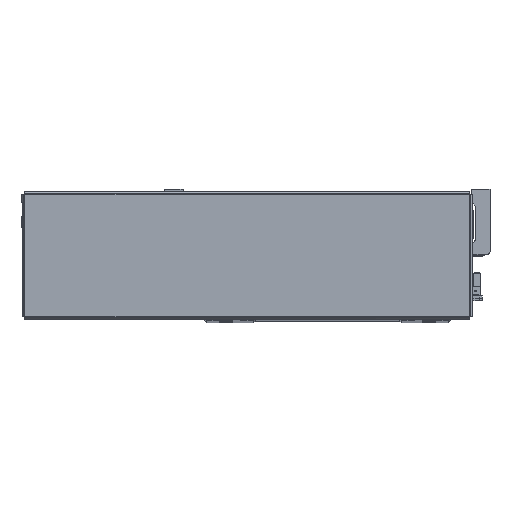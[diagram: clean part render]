
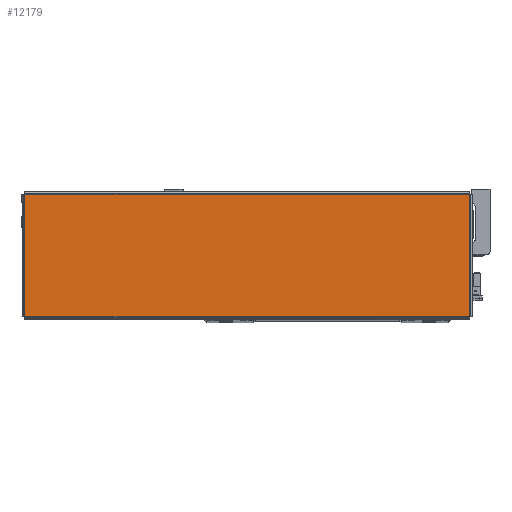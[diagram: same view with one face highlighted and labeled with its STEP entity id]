
A CAD part, top view. The second image highlights one B-rep face of the part: STEP entity #12179.
In plain terms, the highlighted planar face has unit normal (0, 0, 1) as drawn and (0, -1, 0) by its records, which use the part's own axes.
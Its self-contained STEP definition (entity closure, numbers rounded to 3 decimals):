
#2881 = EDGE_CURVE ( 'NONE', #23845, #23881, #13881, .T. ) ;
#2888 = EDGE_CURVE ( 'NONE', #23889, #23839, #13880, .T. ) ;
#2920 = EDGE_CURVE ( 'NONE', #23839, #23845, #13914, .T. ) ;
#2979 = EDGE_CURVE ( 'NONE', #23881, #23889, #13981, .T. ) ;
#12179 = ADVANCED_FACE ( 'NONE', ( #42994 ), #26578, .F. ) ;
#13837 = VECTOR ( 'NONE', #15978, 1000. ) ;
#13858 = VECTOR ( 'NONE', #15977, 1000. ) ;
#13880 = LINE ( 'NONE', #16013, #13837 ) ;
#13881 = LINE ( 'NONE', #15983, #13858 ) ;
#13914 = LINE ( 'NONE', #16022, #13932 ) ;
#13932 = VECTOR ( 'NONE', #16089, 1000. ) ;
#13981 = LINE ( 'NONE', #16288, #14013 ) ;
#14013 = VECTOR ( 'NONE', #16289, 1000. ) ;
#15977 = DIRECTION ( 'NONE',  ( 0., 0., 1. ) ) ;
#15978 = DIRECTION ( 'NONE',  ( 0., 0., -1. ) ) ;
#15983 = CARTESIAN_POINT ( 'NONE',  ( 154.013, -1.2, -42.293 ) ) ;
#16013 = CARTESIAN_POINT ( 'NONE',  ( -154.013, -1.2, 42.293 ) ) ;
#16022 = CARTESIAN_POINT ( 'NONE',  ( -154.043, -1.2, -42.263 ) ) ;
#16089 = DIRECTION ( 'NONE',  ( 1., 0., 0. ) ) ;
#16288 = CARTESIAN_POINT ( 'NONE',  ( 154.043, -1.2, 42.263 ) ) ;
#16289 = DIRECTION ( 'NONE',  ( -1., 0., 0. ) ) ;
#19589 = EDGE_LOOP ( 'NONE', ( #33816, #36555, #36563, #36573 ) ) ;
#23839 = VERTEX_POINT ( 'NONE', #38915 ) ;
#23845 = VERTEX_POINT ( 'NONE', #38947 ) ;
#23881 = VERTEX_POINT ( 'NONE', #38989 ) ;
#23889 = VERTEX_POINT ( 'NONE', #39050 ) ;
#26578 = PLANE ( 'NONE',  #39186 ) ;
#26606 = DIRECTION ( 'NONE',  ( 0., 1., 0. ) ) ;
#26621 = CARTESIAN_POINT ( 'NONE',  ( 0., -1.2, 0. ) ) ;
#26636 = DIRECTION ( 'NONE',  ( 0., 0., 1. ) ) ;
#33816 = ORIENTED_EDGE ( 'NONE', *, *, #2881, .T. ) ;
#36555 = ORIENTED_EDGE ( 'NONE', *, *, #2979, .T. ) ;
#36563 = ORIENTED_EDGE ( 'NONE', *, *, #2888, .T. ) ;
#36573 = ORIENTED_EDGE ( 'NONE', *, *, #2920, .T. ) ;
#38915 = CARTESIAN_POINT ( 'NONE',  ( -154.013, -1.2, -42.263 ) ) ;
#38947 = CARTESIAN_POINT ( 'NONE',  ( 154.013, -1.2, -42.263 ) ) ;
#38989 = CARTESIAN_POINT ( 'NONE',  ( 154.013, -1.2, 42.263 ) ) ;
#39050 = CARTESIAN_POINT ( 'NONE',  ( -154.013, -1.2, 42.263 ) ) ;
#39186 = AXIS2_PLACEMENT_3D ( 'NONE', #26621, #26606, #26636 ) ;
#42994 = FACE_OUTER_BOUND ( 'NONE', #19589, .T. ) ;
